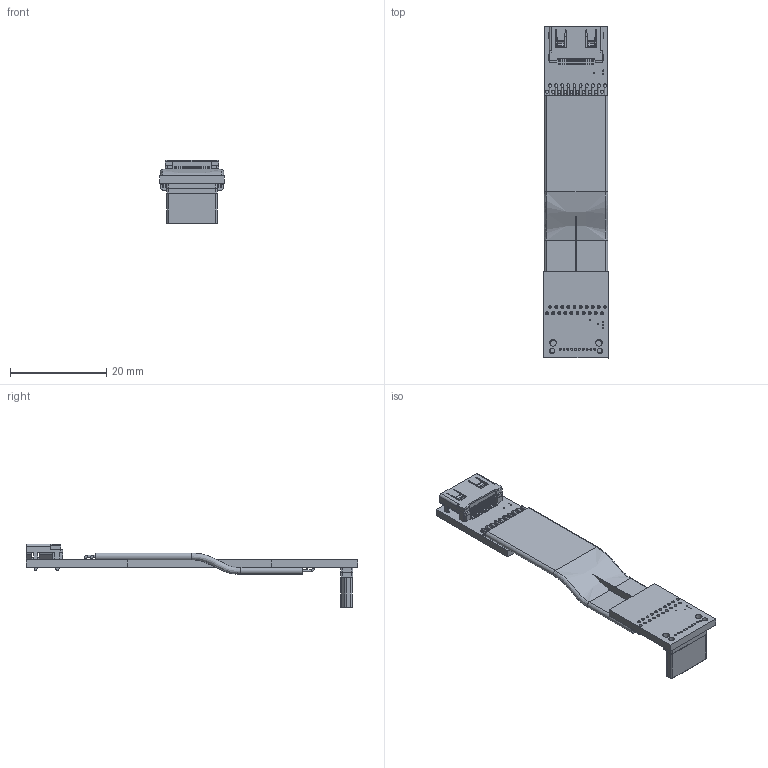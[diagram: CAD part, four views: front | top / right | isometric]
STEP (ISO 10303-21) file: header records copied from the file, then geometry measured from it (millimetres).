
FILE_DESCRIPTION(('Open CASCADE Model'),'2;1');
FILE_NAME('Open CASCADE Shape Model','2022-06-09T21:14:10',('Author'),( 'Open CASCADE'),'Open CASCADE STEP processor 6.8','Open CASCADE 6.8' ,'Unknown');
FILE_SCHEMA(('AUTOMOTIVE_DESIGN { 1 0 10303 214 1 1 1 1 }'));
Length unit declared in the file: millimetre
Products named in the file (49): PCB; Board; Open CASCADE STEP translator 6.8 16.1.1; _1; HC4; Open CASCADE STEP translator 6.8 16.3; HDMI_type_C1; miniHDMI-p_RGB10275833; Free-Models; cable20-A1A2
Assembly tree (49 placements, depth 3):
  PCB
    Board
      Open CASCADE STEP translator 6.8 16.1.1
    _1
      HC4
    Open CASCADE STEP translator 6.8 16.3
      HDMI_type_C1
      miniHDMI-p_RGB10275833  x2
    Free-Models
      cable20-A1A2
      cable20-A1A2
      cable20-A1A2
      cable20-A1A2
      cable20-A1A2
      cable20-A1A2
      cable20-A1A2
      cable20-A1A2
      cable20-A1A2
      cable20-A1A2
      cable20-A1A2
      cable20-A1A2
      cable20-A1A2
      cable20-A1A2
      cable20-A1A2
      cable20-A1A2
      cable20-A1A2
      cable20-A1A2
      cable20-A1A2
      cable20-A1A2
      cable20-A1A2
      cable20-A1A2
      cable20-A1A2
      cable20-A1A2
      cable20-A1A2
      cable20-A1A2
      cable20-A1A2
      cable20-A1A2
      cable20-A1A2
      cable20-A1A2
      cable20-A1A2
      cable20-A1A2
      cable20-A1A2
      cable20-A1A2
      cable20-A1A2
      cable20-A1A2
      cable20-A1A2
      cable20-A1A2
      cable20-A1A2
      cable20-A1A2
Bounding box: 13.35 x 69 x 13.25 mm (x, y, z)
Volume: 1772.2 mm3; surface area: 5194.1 mm2
Topology: 66 solids, 66 shells, 1325 faces, 3406 edges, 2192 vertices
Faces by surface type: plane 782, cylinder 423, bspline 70, torus 46, sphere 4
Full cylindrical faces by diameter (mm): 0.254 x10, 0.4 x106, 0.404 x2, 0.405 x2, 0.6 x40, 1 x2, 1.1 x2, 1.4 x2
Entity records: 49669 total; most frequent: CARTESIAN_POINT 10625, ORIENTED_EDGE 6756, DIRECTION 6542, EDGE_CURVE 3378, LINE 2248, VECTOR 2248, VERTEX_POINT 2176, AXIS2_PLACEMENT_3D 2147
